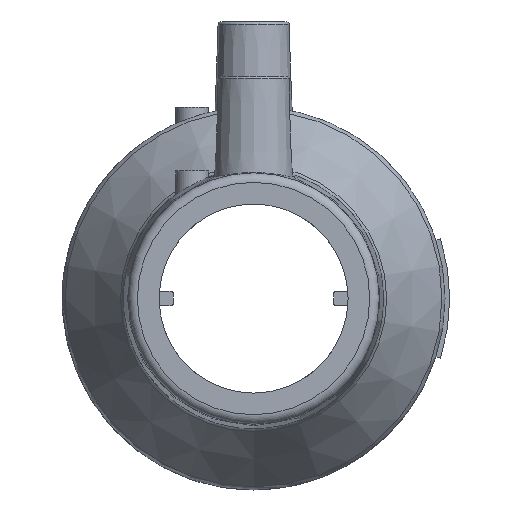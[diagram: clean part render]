
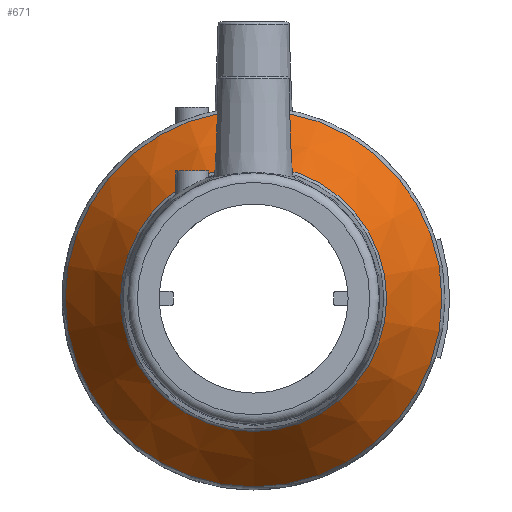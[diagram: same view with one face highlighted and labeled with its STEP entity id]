
A CAD part, left-side view. The second image highlights one B-rep face of the part: STEP entity #671.
In plain terms, the highlighted conical face has half-angle 33.024 degrees and reference radius 40.5 mm.
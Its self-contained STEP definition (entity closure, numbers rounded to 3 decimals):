
#60=CONICAL_SURFACE('',#740,40.5,0.576);
#69=CIRCLE('',#741,28.146);
#70=CIRCLE('',#742,39.854);
#120=ORIENTED_EDGE('',*,*,#289,.T.);
#121=ORIENTED_EDGE('',*,*,#290,.T.);
#289=EDGE_CURVE('',#373,#373,#69,.T.);
#290=EDGE_CURVE('',#374,#374,#70,.T.);
#373=VERTEX_POINT('',#1110);
#374=VERTEX_POINT('',#1112);
#494=EDGE_LOOP('',(#120));
#495=EDGE_LOOP('',(#121));
#576=FACE_BOUND('',#494,.T.);
#577=FACE_BOUND('',#495,.T.);
#671=ADVANCED_FACE('',(#576,#577),#60,.T.);
#740=AXIS2_PLACEMENT_3D('',#1108,#848,#849);
#741=AXIS2_PLACEMENT_3D('',#1109,#850,#851);
#742=AXIS2_PLACEMENT_3D('',#1111,#852,#853);
#848=DIRECTION('',(1.,0.,0.));
#849=DIRECTION('',(0.,0.,-1.));
#850=DIRECTION('',(1.,0.,0.));
#851=DIRECTION('',(0.,0.,-1.));
#852=DIRECTION('',(-1.,0.,0.));
#853=DIRECTION('',(0.,0.,1.));
#1108=CARTESIAN_POINT('',(-7.,0.,0.));
#1109=CARTESIAN_POINT('',(-26.006,0.,0.));
#1110=CARTESIAN_POINT('',(-26.006,0.,-28.146));
#1111=CARTESIAN_POINT('',(-7.994,0.,0.));
#1112=CARTESIAN_POINT('',(-7.994,0.,39.854));
